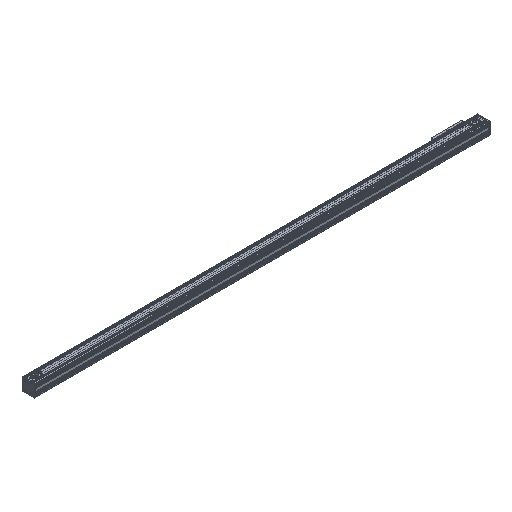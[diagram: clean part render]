
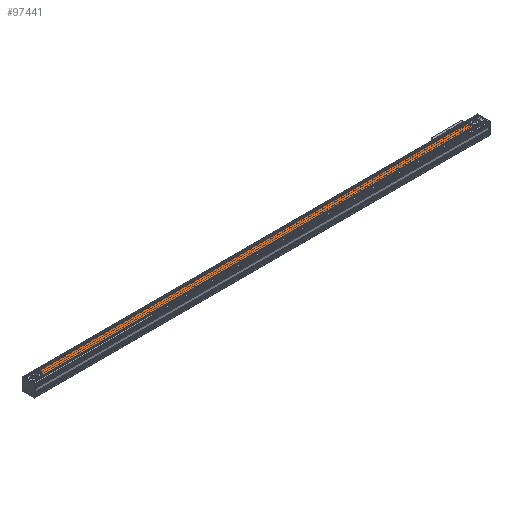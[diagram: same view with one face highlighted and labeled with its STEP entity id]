
A CAD part, isometric view. The second image highlights one B-rep face of the part: STEP entity #97441.
In plain terms, the highlighted planar face has unit normal (0, 0, 1).
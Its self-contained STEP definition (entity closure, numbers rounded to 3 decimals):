
#2741 = CARTESIAN_POINT ( 'NONE',  ( 2731.899, 103.421, 83.366 ) ) ;
#3908 = EDGE_CURVE ( 'NONE', #4670, #106813, #48157, .T. ) ;
#4670 = VERTEX_POINT ( 'NONE', #2741 ) ;
#12529 = EDGE_CURVE ( 'NONE', #106813, #70659, #82973, .T. ) ;
#19372 = DIRECTION ( 'NONE',  ( -1., 0., 0. ) ) ;
#26202 = AXIS2_PLACEMENT_3D ( 'NONE', #71365, #41772, #19372 ) ;
#26319 = ORIENTED_EDGE ( 'NONE', *, *, #71105, .T. ) ;
#29073 = DIRECTION ( 'NONE',  ( 1., 0., 0. ) ) ;
#29452 = CARTESIAN_POINT ( 'NONE',  ( 2731.899, 62.821, 83.366 ) ) ;
#32988 = CARTESIAN_POINT ( 'NONE',  ( -164.672, 119.121, 83.366 ) ) ;
#33882 = DIRECTION ( 'NONE',  ( 0., 0., 1. ) ) ;
#34122 = EDGE_LOOP ( 'NONE', ( #26319, #53648, #57273, #96538 ) ) ;
#39586 = CARTESIAN_POINT ( 'NONE',  ( -164.672, 62.821, 83.366 ) ) ;
#40893 = DIRECTION ( 'NONE',  ( 1., 0., 0. ) ) ;
#41772 = DIRECTION ( 'NONE',  ( 0., 0., -1. ) ) ;
#46345 = CARTESIAN_POINT ( 'NONE',  ( -91.244, 62.821, 83.366 ) ) ;
#48157 = LINE ( 'NONE', #95564, #105848 ) ;
#53648 = ORIENTED_EDGE ( 'NONE', *, *, #62338, .F. ) ;
#56841 = AXIS2_PLACEMENT_3D ( 'NONE', #32988, #61289, #40893 ) ;
#57273 = ORIENTED_EDGE ( 'NONE', *, *, #3908, .T. ) ;
#61289 = DIRECTION ( 'NONE',  ( 0., 0., 1. ) ) ;
#62338 = EDGE_CURVE ( 'NONE', #4670, #107328, #128273, .T. ) ;
#70659 = VERTEX_POINT ( 'NONE', #46345 ) ;
#71105 = EDGE_CURVE ( 'NONE', #70659, #107328, #90940, .T. ) ;
#71365 = CARTESIAN_POINT ( 'NONE',  ( -114.672, 83.121, 83.366 ) ) ;
#81246 = VECTOR ( 'NONE', #29073, 1000. ) ;
#82973 = CIRCLE ( 'NONE', #26202, 31. ) ;
#87713 = FACE_OUTER_BOUND ( 'NONE', #34122, .T. ) ;
#88268 = AXIS2_PLACEMENT_3D ( 'NONE', #124129, #33882, #124766 ) ;
#90940 = LINE ( 'NONE', #39586, #81246 ) ;
#95564 = CARTESIAN_POINT ( 'NONE',  ( -164.672, 103.421, 83.366 ) ) ;
#96538 = ORIENTED_EDGE ( 'NONE', *, *, #12529, .T. ) ;
#97441 = ADVANCED_FACE ( 'NONE', ( #87713 ), #98898, .T. ) ;
#98223 = DIRECTION ( 'NONE',  ( -1., 0., 0. ) ) ;
#98898 = PLANE ( 'NONE',  #56841 ) ;
#105848 = VECTOR ( 'NONE', #98223, 1000. ) ;
#106813 = VERTEX_POINT ( 'NONE', #113712 ) ;
#107328 = VERTEX_POINT ( 'NONE', #29452 ) ;
#113712 = CARTESIAN_POINT ( 'NONE',  ( -91.244, 103.421, 83.366 ) ) ;
#124129 = CARTESIAN_POINT ( 'NONE',  ( 2755.328, 83.121, 83.366 ) ) ;
#124766 = DIRECTION ( 'NONE',  ( 1., 0., 0. ) ) ;
#128273 = CIRCLE ( 'NONE', #88268, 31. ) ;
